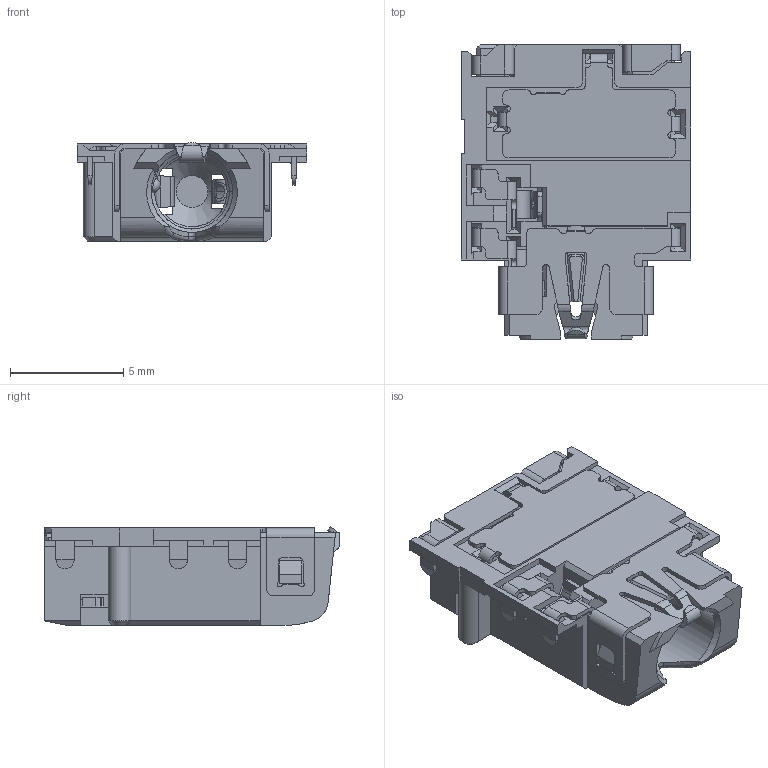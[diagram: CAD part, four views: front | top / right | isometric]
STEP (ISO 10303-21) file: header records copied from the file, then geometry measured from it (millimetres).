
FILE_DESCRIPTION (( 'STEP AP203' ), '1' );
FILE_NAME ('J3B-5.STEP', '2020-10-31T02:36:38', ( '' ), ( '' ), 'SwSTEP 2.0', 'SolidWorks 2016', '' );
FILE_SCHEMA (( 'CONFIG_CONTROL_DESIGN' ));
Length unit declared in the file: millimetre
Products named in the file (1): J3B-5
Bounding box: 10.1 x 13 x 4.36 mm (x, y, z)
Volume: 234.2 mm3; surface area: 950.6 mm2
Topology: 2 solids, 2 shells, 1071 faces, 3040 edges, 1930 vertices
Faces by surface type: plane 653, cylinder 324, bspline 69, cone 13, torus 8, sphere 4
Entity records: 36846 total; most frequent: CARTESIAN_POINT 9482, ORIENTED_EDGE 6048, DIRECTION 5299, EDGE_CURVE 3024, LINE 2119, VECTOR 2119, VERTEX_POINT 1926, AXIS2_PLACEMENT_3D 1590
